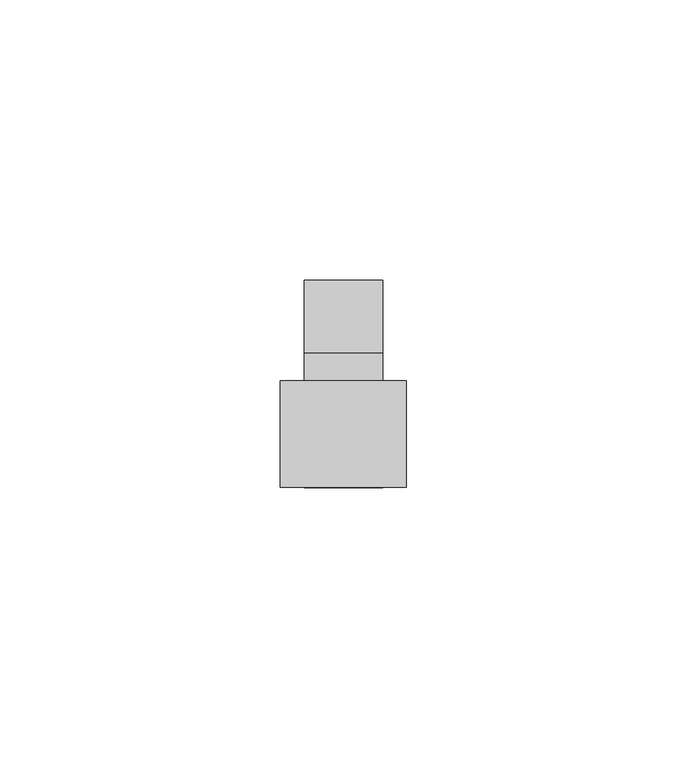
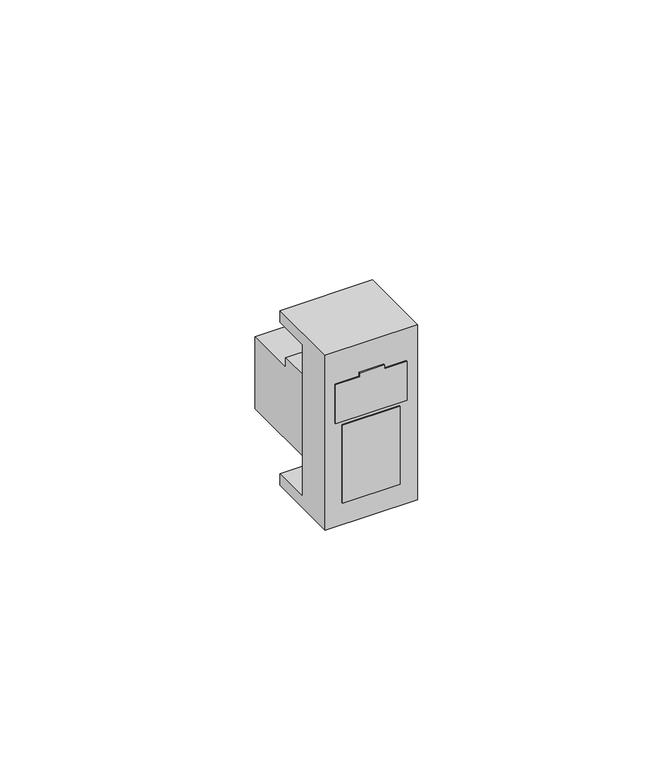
"""IFC4 building model written with IfcOpenShell, lengths in millimetres: proxy geometry."""

from ifc_helpers import new_model, si_unit, frame, origin, place, context, project, spatial, polyline, outline, extrude, faceted_brep, source, transform, mapped, element, save


def electrical_fixtures_21e1debb(model_context):
    return source(origin(), model_context, "Body", "SolidModel", [
        extrude(outline(polyline([(3.9878881, 19.9), (13.9878881, 19.9), (13.9878881, 14.4016824), (14.9878881, 14.4016824), (14.9878881, 8.4016824), (13.9878881, 8.4016824), (13.9878881, 2.5), (3.9878881, 2.5), (3.9878881, 19.9)])), frame((0.0, -7.0, 0.0), z_axis=(0.0, 1.0, 0.0), x_axis=(0.0, 0.0, 1.0)), (0.0, 0.0, 1.0), 1.0),
        extrude(outline(polyline([(18.2, -7.0), (4.2, -7.0), (4.2, -6.0), (18.2, -6.0), (18.2, -7.0)])), frame((0.0, 0.0, -16.95), z_axis=(0.0, 0.0, 1.0), x_axis=(1.0, 0.0, 0.0)), (0.0, 0.0, 1.0), 19.9378881),
        extrude(outline(polyline([(8.3269263, 8.0), (8.3269263, 5.9037214), (16.9, 5.9037214), (16.9, 3.4037214), (29.9, 3.4037214), (29.9, -15.0962786), (6.1, -15.0962786), (6.1, -17.95), (2.5, -17.95), (2.5, 8.0), (8.3269263, 8.0)])), frame((4.2, 0.0, 0.0), z_axis=(1.0, 0.0, 0.0), x_axis=(0.0, 1.0, 0.0)), (0.0, 0.0, 1.0), 14.0),
        faceted_brep([(22.4, 12.0, 22.45), (22.4, 12.0, 19.45), (0.0, 12.0, 19.45), (0.0, 12.0, 22.45), (22.4, 2.5, 19.45), (0.0, 2.5, 19.45), (22.4, -7.0, -22.45), (22.4, -7.0, 22.45), (0.0, -7.0, 22.45), (0.0, -7.0, -22.45), (19.9, -7.0, 13.9878881), (19.9, -7.0, 3.9878881), (2.5, -7.0, 3.9878881), (2.5, -7.0, 13.9878881), (8.4016824, -7.0, 13.9878881), (8.4016824, -7.0, 14.9878881), (14.4016824, -7.0, 14.9878881), (14.4016824, -7.0, 13.9878881), (4.2, -7.0, 2.9878881), (18.2, -7.0, 2.9878881), (18.2, -7.0, -16.95), (4.2, -7.0, -16.95), (22.4, 2.5, -19.45), (0.0, 2.5, -19.45), (22.4, 12.0, -22.45), (22.4, 12.0, -19.45), (0.0, 12.0, -19.45), (0.0, 12.0, -22.45), (19.9, -3.5, 3.9878881), (19.9, -3.5, 13.9878881), (14.4016824, -3.5, 13.9878881), (14.4016824, -3.5, 14.9878881), (8.4016824, -3.5, 14.9878881), (8.4016824, -3.5, 13.9878881), (2.5, -3.5, 13.9878881), (2.5, -3.5, 3.9878881), (18.2, -3.5, 2.9878881), (4.2, -3.5, 2.9878881), (4.2, -3.5, -16.95), (18.2, -3.5, -16.95), (11.2, -3.5, -13.45), (9.2, -3.5, -13.45), (9.2, -3.5, -11.95), (8.2, -3.5, -11.95), (8.2, -3.5, -9.95), (5.2, -3.5, -9.95), (5.2, -3.5, -1.95), (17.2, -3.5, -1.95), (17.2, -3.5, -9.95), (14.2, -3.5, -9.95), (14.2, -3.5, -11.95), (13.2, -3.5, -11.95), (13.2, -3.5, -13.45), (9.2, 1.9411577, -13.45), (11.2, 1.9411577, -13.45), (13.2, 1.9411577, -13.45), (13.2, 1.9411577, -11.95), (14.2, 1.9411577, -11.95), (14.2, 1.9411577, -9.95), (17.2, 1.9411577, -9.95), (17.2, 1.9411577, -1.95), (5.2, 1.9411577, -1.95), (5.2, 1.9411577, -9.95), (8.2, 1.9411577, -9.95), (8.2, 1.9411577, -11.95), (9.2, 1.9411577, -11.95)], [[[0, 1, 2, 3]], [[2, 1, 4, 5]], [[6, 7, 8, 9], [10, 11, 12, 13, 14, 15, 16, 17], [18, 19, 20, 21]], [[5, 4, 22, 23]], [[7, 6, 24, 25, 22, 4, 1, 0]], [[8, 7, 0, 3]], [[9, 8, 3, 2, 5, 23, 26, 27]], [[24, 6, 9, 27]], [[25, 24, 27, 26]], [[25, 26, 23, 22]], [[28, 29, 30, 31, 32, 33, 34, 35]], [[36, 37, 38, 39], [40, 41, 42, 43, 44, 45, 46, 47, 48, 49, 50, 51, 52]], [[29, 28, 11, 10]], [[30, 29, 10, 17]], [[31, 30, 17, 16]], [[32, 31, 16, 15]], [[33, 32, 15, 14]], [[34, 33, 14, 13]], [[35, 34, 13, 12]], [[28, 35, 12, 11]], [[37, 36, 19, 18]], [[38, 37, 18, 21]], [[39, 38, 21, 20]], [[36, 39, 20, 19]], [[53, 54, 55, 56, 57, 58, 59, 60, 61, 62, 63, 64, 65]], [[54, 53, 41, 40]], [[55, 54, 40, 52]], [[56, 55, 52, 51]], [[57, 56, 51, 50]], [[58, 57, 50, 49]], [[59, 58, 49, 48]], [[60, 59, 48, 47]], [[61, 60, 47, 46]], [[62, 61, 46, 45]], [[63, 62, 45, 44]], [[64, 63, 44, 43]], [[65, 64, 43, 42]], [[53, 65, 42, 41]]]),
    ])


if __name__ == "__main__":
    model = new_model("IFC4")
    model_context = context("Model", 3, world=origin())
    ifc_project = project(units=[si_unit("LENGTHUNIT", "METRE", prefix="MILLI")], contexts=[model_context])
    site = spatial("IfcSite", under=ifc_project)
    building = spatial("IfcBuilding", under=site)
    placement = place(None, origin())
    electrical_fixtures_shape = electrical_fixtures_21e1debb(model_context)
    element("IfcBuildingElementProxy", 1, Name="Electrical Fixtures", at=placement, inside=building, context=model_context, shape_type="MappedRepresentation", body=[
        mapped(electrical_fixtures_shape, transform((0.0, 0.0, 0.0), x_axis=(1.0, 0.0, 0.0), y_axis=(0.0, 1.0, 0.0), z_axis=(0.0, 0.0, 1.0))),
    ])
    save(model, "model.ifc")
